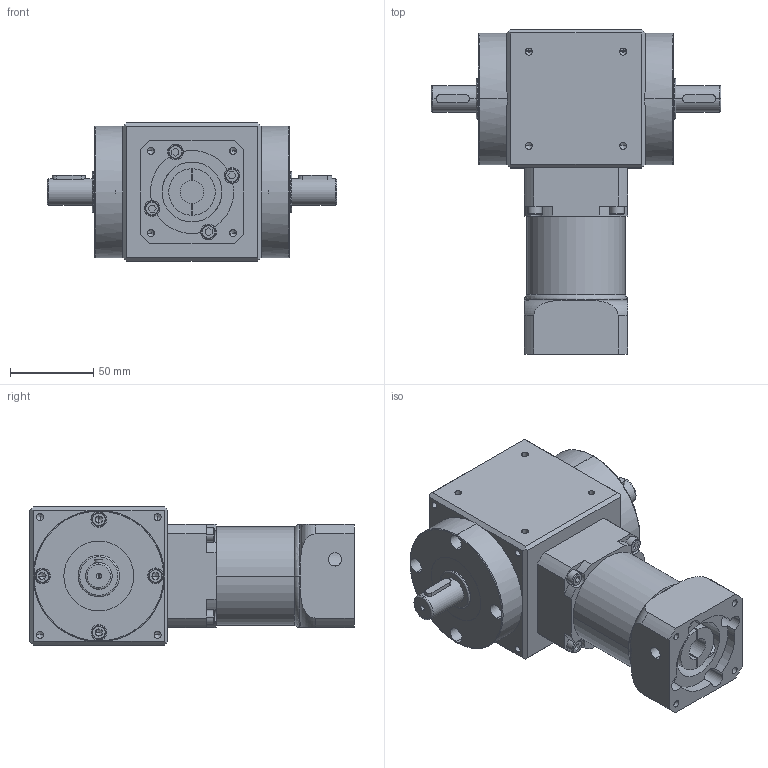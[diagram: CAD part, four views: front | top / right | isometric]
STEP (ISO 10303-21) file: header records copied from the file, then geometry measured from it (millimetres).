
FILE_DESCRIPTION (( 'STEP AP214' ), '1' );
FILE_NAME ('RAH060-L2-XX-2S-14-50-70-M5_2019.STEP', '2019-03-22T10:35:00', ( 'Y' ), ( 'NCU' ), 'SwSTEP 2.0', 'SolidWorks 2016', '' );
FILE_SCHEMA (( 'AUTOMOTIVE_DESIGN' ));
Length unit declared in the file: millimetre
Products named in the file (1): RAH060-L2-XX-2S-14-50-70-M5_2019
Bounding box: 174 x 195 x 83 mm (x, y, z)
Volume: 1075294.7 mm3; surface area: 109770.6 mm2
Topology: 3 solids, 13 shells, 609 faces, 1487 edges, 915 vertices
Faces by surface type: plane 266, cylinder 215, cone 96, bspline 24, torus 8
Entity records: 19290 total; most frequent: CARTESIAN_POINT 4120, DIRECTION 3078, ORIENTED_EDGE 2846, EDGE_CURVE 1423, AXIS2_PLACEMENT_3D 1169, VERTEX_POINT 915, LINE 740, VECTOR 740
